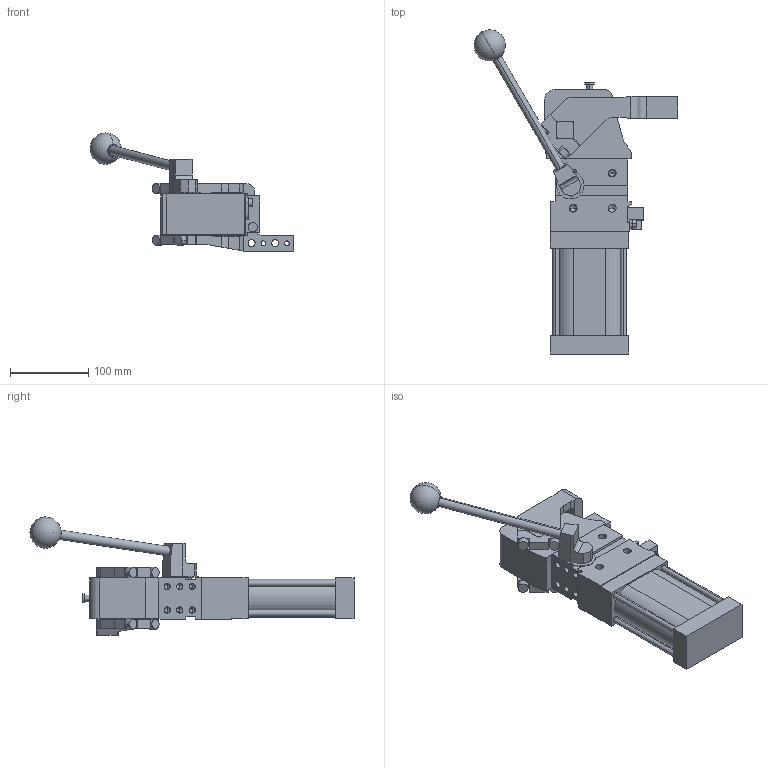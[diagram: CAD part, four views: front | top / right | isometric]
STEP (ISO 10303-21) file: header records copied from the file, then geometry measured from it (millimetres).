
FILE_DESCRIPTION (( 'STEP AP214' ), '1' );
FILE_NAME ('cplm63lav1dsi1g_16.STEP', '2023-01-26T14:36:20', ( '' ), ( '' ), 'SwSTEP 2.0', 'SolidWorks 2022', '' );
FILE_SCHEMA (( 'AUTOMOTIVE_DESIGN' ));
Length unit declared in the file: millimetre
Products named in the file (5): leva_sx_offset_15_cpl63; cplm63lav1dsi1g_16; comando_manuale_cplm_63; meccanica_cplm_63; blocchetto_VEP_0
Assembly tree (4 placements, depth 2):
  cplm63lav1dsi1g_16
    meccanica_cplm_63
    blocchetto_VEP_0
    leva_sx_offset_15_cpl63
    comando_manuale_cplm_63
Bounding box: 260.57 x 414.56 x 151 mm (x, y, z)
Volume: 1866260.9 mm3; surface area: 206781.4 mm2
Topology: 4 solids, 4 shells, 430 faces, 1128 edges, 699 vertices
Faces by surface type: plane 217, cylinder 161, cone 50, sphere 2
Entity records: 14523 total; most frequent: CARTESIAN_POINT 2312, DIRECTION 2297, ORIENTED_EDGE 2154, EDGE_CURVE 1077, AXIS2_PLACEMENT_3D 795, LINE 707, VECTOR 707, VERTEX_POINT 696
